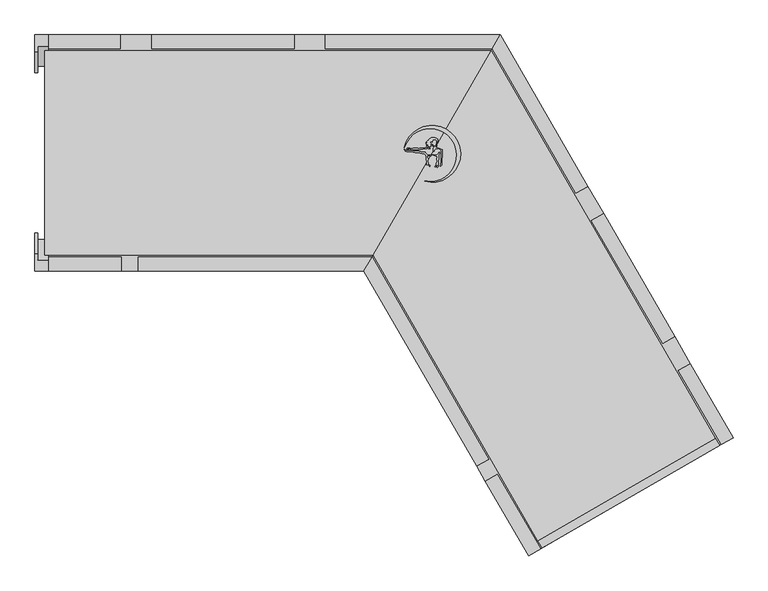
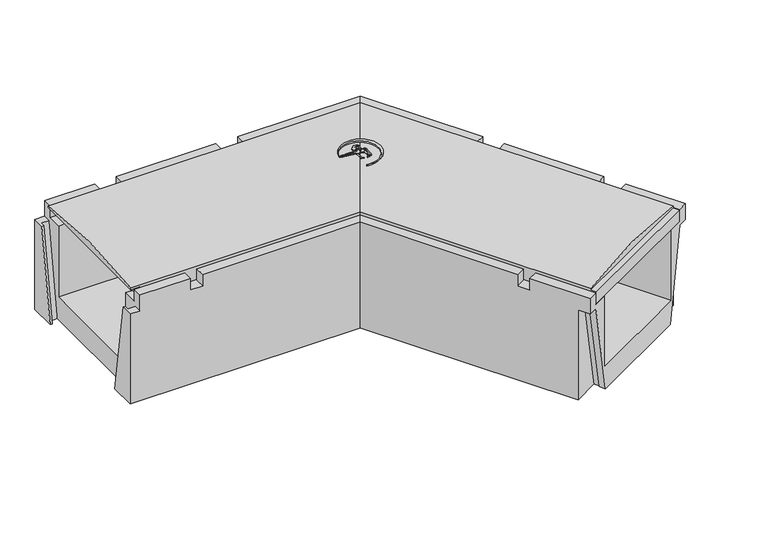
"""IFC4 building model written with IfcOpenShell, lengths in millimetres: cable carrier fitting geometry, Evotray type 2 horizontal bend : Evotray type 2 horizontal bend."""

import ifcopenshell
import ifcopenshell.guid

model = None  # the IFC model being written
_history = None  # IfcOwnerHistory: only IFC2X3 demands one
_inside = {}  # id of a spatial element -> (the spatial element, [elements in it])
_under = {}  # id of a project, library or spatial element -> (it, [spatial elements below it])
_declared = {}  # id of a project -> (the project, [libraries it declares])
_typed = {}  # id of a type object -> (the type object, [elements of that type])
_made_of = {}  # id of a material, layer set ... -> (it, [elements and type objects made of it])


def new_model(schema):
    """Start an empty IFC model of exactly this schema.

    Asked for "IFC4X3", IfcOpenShell would pick the latest addendum, in which some entities
    have other attributes; the version numbers below select the first issue.
    IFC2X3 requires an IfcOwnerHistory on every rooted entity: one is made here for all.
    """
    global model, _history
    if schema == "IFC4X3":
        model = ifcopenshell.file(schema_version=(4, 3, 0, 0))
    else:
        model = ifcopenshell.file(schema=schema)
    _inside.clear()
    _under.clear()
    _declared.clear()
    _typed.clear()
    _made_of.clear()
    _history = None
    if model.schema == "IFC2X3":
        org = make("IfcOrganization", Name="unknown")
        user = make(
            "IfcPersonAndOrganization",
            ThePerson=make("IfcPerson", FamilyName="unknown"),
            TheOrganization=org,
        )
        app = make(
            "IfcApplication",
            ApplicationDeveloper=org,
            Version="unknown",
            ApplicationFullName="unknown",
            ApplicationIdentifier="unknown",
        )
        _history = make(
            "IfcOwnerHistory",
            OwningUser=user,
            OwningApplication=app,
            ChangeAction="ADDED",
            CreationDate=0,
        )
    return model


def make(cls, **values):
    """One entity of the class cls with the attributes given. An attribute that is None is left unset."""
    return model.create_entity(
        cls, **{name: value for name, value in values.items() if value is not None}
    )


def rooted(cls, **values):
    """An entity with a GlobalId (a new one), such as an element, a storey or a relation."""
    return make(cls, GlobalId=ifcopenshell.guid.new(), OwnerHistory=_history, **values)


def si_unit(unit_type, name, prefix=None):
    """IfcSIUnit, for example si_unit("LENGTHUNIT", "METRE", prefix="MILLI")."""
    return make("IfcSIUnit", UnitType=unit_type, Prefix=prefix, Name=name)


def assignment(units):
    """IfcUnitAssignment: the units of a project."""
    return None if units is None else make("IfcUnitAssignment", Units=units)


def point(xyz):
    """IfcCartesianPoint."""
    return None if xyz is None else make("IfcCartesianPoint", Coordinates=xyz)


def direction(xyz):
    """IfcDirection."""
    return None if xyz is None else make("IfcDirection", DirectionRatios=xyz)


def frame(location, z_axis=None, x_axis=None):
    """IfcAxis2Placement3D, a coordinate frame: its origin and axes. An axis left out is left unset."""
    return make(
        "IfcAxis2Placement3D",
        Location=point(location),
        Axis=direction(z_axis),
        RefDirection=direction(x_axis),
    )


def frame_2d(location, x_axis=None):
    """IfcAxis2Placement2D, a coordinate frame in the plane: its origin and x axis."""
    return make(
        "IfcAxis2Placement2D", Location=point(location), RefDirection=direction(x_axis)
    )


def origin():
    """The frame at (0, 0, 0) with its axes left unset."""
    return frame((0.0, 0.0, 0.0))


def place(relative_to, where):
    """IfcLocalPlacement: puts the frame where relative to a parent placement (None: the world)."""
    return make(
        "IfcLocalPlacement", PlacementRelTo=relative_to, RelativePlacement=where
    )


def context(
    kind, dimensions, precision=None, world=None, true_north=None, identifier=None
):
    """IfcGeometricRepresentationContext, for example the 3D "Model" context."""
    return make(
        "IfcGeometricRepresentationContext",
        ContextIdentifier=identifier,
        ContextType=kind,
        CoordinateSpaceDimension=dimensions,
        Precision=precision,
        WorldCoordinateSystem=world,
        TrueNorth=true_north,
    )


def project(units=None, contexts=None):
    """IfcProject with its units and contexts."""
    return rooted(
        "IfcProject",
        Name="project",
        RepresentationContexts=contexts,
        UnitsInContext=assignment(units),
    )


def spatial(cls, under=None, at=None, **own):
    """A site, building, storey or space (cls), placed at a placement, below another one or the project."""
    s = rooted(cls, ObjectPlacement=at, **own)
    if under is not None:
        _under.setdefault(under.id(), (under, []))[1].append(s)
    return s


def polyline(points):
    """IfcPolyline through the points."""
    return make("IfcPolyline", Points=[point(p) for p in points])


def circle_curve(where, radius):
    """IfcCircle in the frame where."""
    return make("IfcCircle", Position=where, Radius=radius)


def ellipse_curve(where, semi_axis1, semi_axis2):
    """IfcEllipse in the frame where."""
    return make(
        "IfcEllipse", Position=where, SemiAxis1=semi_axis1, SemiAxis2=semi_axis2
    )


def trimmed(basis, trim1, trim2, sense, master):
    """IfcTrimmedCurve: the piece of a basis curve between two trims."""
    return make(
        "IfcTrimmedCurve",
        BasisCurve=basis,
        Trim1=trim1,
        Trim2=trim2,
        SenseAgreement=sense,
        MasterRepresentation=master,
    )


def segment(curve, same_sense, transition):
    """IfcCompositeCurveSegment."""
    return make(
        "IfcCompositeCurveSegment",
        Transition=transition,
        SameSense=same_sense,
        ParentCurve=curve,
    )


def composite_curve(segments, self_intersect=None):
    """IfcCompositeCurve: segments joined end to end."""
    return make("IfcCompositeCurve", Segments=segments, SelfIntersect=self_intersect)


def outline(outer, holes=None, kind="AREA"):
    """IfcArbitraryClosedProfileDef: a profile drawn as a closed curve; with holes, ...WithVoids."""
    if holes is None:
        return make("IfcArbitraryClosedProfileDef", ProfileType=kind, OuterCurve=outer)
    return make(
        "IfcArbitraryProfileDefWithVoids",
        ProfileType=kind,
        OuterCurve=outer,
        InnerCurves=holes,
    )


def extrude(swept, where, along, depth):
    """IfcExtrudedAreaSolid: the profile swept, set in the frame where, extruded along a direction by depth."""
    return make(
        "IfcExtrudedAreaSolid",
        SweptArea=swept,
        Position=where,
        ExtrudedDirection=direction(along),
        Depth=depth,
    )


def faces_of(points, faces, orient=None, outer=None):
    """IfcFace entities. A face is a list of loops; a loop is a list of indices into points, from 0.

    orient and outer hold one flag for each loop. By default every Orientation is true, the
    first loop of a face is its IfcFaceOuterBound and the others are IfcFaceBound.
    """
    made = []
    for i, loops in enumerate(faces):
        bounds = []
        for j, loop in enumerate(loops):
            is_outer = j == 0 if outer is None else outer[i][j]
            bounds.append(
                make(
                    "IfcFaceOuterBound" if is_outer else "IfcFaceBound",
                    Bound=make("IfcPolyLoop", Polygon=[points[k] for k in loop]),
                    Orientation=True if orient is None else orient[i][j],
                )
            )
        made.append(make("IfcFace", Bounds=bounds))
    return made


def faceted_brep(points, faces, orient=None, outer=None, voids=None):
    """IfcFacetedBrep: a solid bounded by flat faces; with voids (closed shells), ...WithVoids."""
    shared = [point(p) for p in points]
    hull = make("IfcClosedShell", CfsFaces=faces_of(shared, faces, orient, outer))
    if voids is None:
        return make("IfcFacetedBrep", Outer=hull)
    return make(
        "IfcFacetedBrepWithVoids",
        Outer=hull,
        Voids=[
            make(cls, CfsFaces=faces_of(shared, fs, o, b)) for cls, fs, o, b in voids
        ],
    )


def shape(context_of_items, identifier, shape_type, items):
    """IfcShapeRepresentation: the items that make up one representation, for example the "Body"."""
    return make(
        "IfcShapeRepresentation",
        ContextOfItems=context_of_items,
        RepresentationIdentifier=identifier,
        RepresentationType=shape_type,
        Items=items,
    )


def source(mapping_origin, context_of_items, identifier, shape_type, items):
    """IfcRepresentationMap: a shape defined once, which mapped items show again and again."""
    return make(
        "IfcRepresentationMap",
        MappingOrigin=mapping_origin,
        MappedRepresentation=shape(context_of_items, identifier, shape_type, items),
    )


def transform(
    local_origin,
    x_axis=None,
    y_axis=None,
    z_axis=None,
    scale=None,
    scale2=None,
    scale3=None,
    uniform=True,
):
    """IfcCartesianTransformationOperator3D, or its non-uniform kind. x_axis, y_axis, z_axis: its Axis1, 2, 3."""
    if uniform:
        return make(
            "IfcCartesianTransformationOperator3D",
            Axis1=direction(x_axis),
            Axis2=direction(y_axis),
            LocalOrigin=point(local_origin),
            Scale=scale,
            Axis3=direction(z_axis),
        )
    return make(
        "IfcCartesianTransformationOperator3DnonUniform",
        Axis1=direction(x_axis),
        Axis2=direction(y_axis),
        LocalOrigin=point(local_origin),
        Scale=scale,
        Axis3=direction(z_axis),
        Scale2=scale2,
        Scale3=scale3,
    )


def mapped(mapping_source, mapping_target):
    """IfcMappedItem: shows the shape of a source again, moved by a transform."""
    return make(
        "IfcMappedItem", MappingSource=mapping_source, MappingTarget=mapping_target
    )


def made_of(thing, what):
    """Note that an element or type object is made of a material, layer set ...; save() writes the relation."""
    if what is not None:
        _made_of.setdefault(what.id(), (what, []))[1].append(thing)
    return thing


def element(
    cls,
    number,
    at=None,
    inside=None,
    cuts=None,
    type_object=None,
    material=None,
    context=None,
    identifier="Body",
    shape_type=None,
    held_by="IfcProductDefinitionShape",
    body=None,
    shapes=None,
    **own,
):
    """One element of the class cls, such as IfcWall. Its Tag is "e" and its number.

    at: its placement. inside: the storey or other place that contains it. cuts: it is an
    opening in that element (IfcRelVoidsElement). A single representation is given by context,
    identifier, shape_type and body (its items); several are given by shapes. held_by: the class
    of the entity that holds the representations. save() writes the other relations.
    """
    e = rooted(cls, Tag="e%d" % number, ObjectPlacement=at, **own)
    if body is not None:
        shapes = [shape(context, identifier, shape_type, body)]
    if shapes is not None:
        e.Representation = make(held_by, Representations=shapes)
    if inside is not None:
        _inside.setdefault(inside.id(), (inside, []))[1].append(e)
    if cuts is not None:
        rooted(
            "IfcRelVoidsElement", RelatingBuildingElement=cuts, RelatedOpeningElement=e
        )
    if type_object is not None:
        _typed.setdefault(type_object.id(), (type_object, []))[1].append(e)
    return made_of(e, material)


def aggregate(whole, parts):
    """IfcRelAggregates: a whole, such as a stair, and the parts it consists of."""
    return rooted("IfcRelAggregates", RelatingObject=whole, RelatedObjects=parts)


def save(model, path):
    """Write the relations noted so far, then the file.

    IfcRelAggregates (storeys below a building ...), IfcRelContainedInSpatialStructure (elements
    in a storey), IfcRelDefinesByType, IfcRelAssociatesMaterial and IfcRelDeclares: one each for
    every whole, place, type object, material and project.
    """
    for whole, parts in _under.values():
        aggregate(whole, parts)
    for where, things in _inside.values():
        rooted(
            "IfcRelContainedInSpatialStructure",
            RelatedElements=things,
            RelatingStructure=where,
        )
    for kind, things in _typed.values():
        rooted("IfcRelDefinesByType", RelatedObjects=things, RelatingType=kind)
    for what, things in _made_of.values():
        rooted("IfcRelAssociatesMaterial", RelatedObjects=things, RelatingMaterial=what)
    for by, libraries in _declared.values():
        rooted("IfcRelDeclares", RelatingContext=by, RelatedDefinitions=libraries)
    model.write(path)


def plane_surface(at):
    """IfcPlane: the flat surface through the origin of the frame at, square to its z axis."""
    return make("IfcPlane", Position=at)


def cylinder_surface(at, radius):
    """IfcCylindricalSurface: all points at the distance radius from the z axis of the frame at."""
    return make("IfcCylindricalSurface", Position=at, Radius=radius)


def advanced_brep(points, edges, surfaces, faces):
    """IfcAdvancedBrep: a solid bounded by faces that lie on surfaces and meet in shared edges.

    An edge is (start, end): straight between two places in points (the first is 0);
    or (start, end, curve); or (start, end, curve, False) where it runs against its curve.
    A face is (place in surfaces, loops), or (place, loops, False) where it looks against
    its surface's normal. A loop lists edges by number (the first is 1), with a minus sign
    where the edge is run from its end to its start. The first loop is the outer one.
    """
    corners = [point(p) for p in points]
    vertices = [make("IfcVertexPoint", VertexGeometry=c) for c in corners]
    made = []
    for start, end, *more in edges:
        made.append(
            make(
                "IfcEdgeCurve",
                EdgeStart=vertices[start],
                EdgeEnd=vertices[end],
                EdgeGeometry=more[0] if more else make("IfcPolyline", Points=[corners[start], corners[end]]),
                SameSense=more[1] if len(more) > 1 else True,
            )
        )
    hull = []
    for where, loops, *sense in faces:
        bounds = []
        for j, loop in enumerate(loops):
            ring = [make("IfcOrientedEdge", EdgeElement=made[abs(k) - 1], Orientation=k > 0) for k in loop]
            bounds.append(
                make(
                    "IfcFaceOuterBound" if j == 0 else "IfcFaceBound",
                    Bound=make("IfcEdgeLoop", EdgeList=ring),
                    Orientation=True,
                )
            )
        hull.append(make("IfcAdvancedFace", Bounds=bounds, FaceSurface=surfaces[where], SameSense=sense[0] if sense else True))
    return make("IfcAdvancedBrep", Outer=make("IfcClosedShell", CfsFaces=hull))


def cable_carrier_fitting_827e61d7(model_context):
    return source(origin(), model_context, "Body", "SolidModel", [
        extrude(outline(composite_curve([segment(polyline([(78.8870908, 7.5339815), (80.3127818, 6.7108584), (79.6038505, 6.3015567), (77.0389206, 6.3015567), (74.5794273, 3.8420634), (74.5794273, 2.2583954), (73.5219134, 1.9750354), (73.1905463, 3.2117144), (73.5127676, 4.414261), (73.5127676, 6.6410761), (74.9793083, 8.1076167), (74.5794273, 8.8002309), (73.5127676, 9.4160672), (72.6544958, 9.9115907), (71.6613722, 10.9047143), (71.6613722, 12.1547711), (72.4491664, 11.6999379), (73.5127676, 10.6363367), (74.5794273, 10.0205004), (76.892192, 10.0205004), (77.5240907, 10.6523991), (77.5240907, 12.2608037), (77.9299477, 12.9637687), (78.1695177, 13.8578561), (78.1695177, 17.953291), (77.5240907, 18.598718), (73.5127676, 18.9496633), (72.7646035, 18.5177106), (72.332755, 17.769727), (72.1103616, 16.9397435), (71.8376452, 15.393092), (71.2816235, 15.9491137), (70.7159676, 16.5147695), (69.7554327, 16.5147695), (69.2809933, 15.6930164), (69.2809933, 14.868111), (69.6830405, 14.1717449), (70.4107351, 13.4440503), (70.0140958, 11.9637721), (69.6765958, 10.7042051), (69.9794033, 8.9868987), (69.1786102, 8.8456973), (67.4481649, 9.3093687), (66.2014556, 9.8907188), (65.4481984, 10.2419684), (63.8487499, 9.9599424), (64.3163083, 10.7697774), (65.9731293, 11.3728109)]), True, "CONTINUOUS"), segment(trimmed(circle_curve(frame_2d((65.4070017, 11.1008716)), 0.6280537), [point((65.9731293, 11.3728109))], [point((65.2514195, 11.7093497))], True, "CARTESIAN"), True, "CONTINUOUS"), segment(polyline([(65.2514195, 11.7093497), (63.3044045, 11.7093497), (63.8625826, 12.2675278), (64.7133623, 12.5771863), (65.5318018, 12.875074)]), True, "CONTINUOUS"), segment(trimmed(circle_curve(frame_2d((64.7934769, 12.875074)), 0.7383249), [point((65.5318018, 12.875074))], [point((64.7934769, 13.6133989))], True, "CARTESIAN"), True, "CONTINUOUS"), segment(polyline([(64.7934769, 13.6133989), (63.0857293, 13.6133989), (62.6942077, 14.2915342), (64.5127998, 14.612201), (65.8091378, 15.0840295), (65.1883851, 15.7047821), (63.2251656, 15.7047821), (63.7777481, 16.2573646), (64.8075808, 16.8519388), (65.4823051, 17.5266631), (66.2051224, 17.9439819), (67.1801344, 18.5069053)]), True, "CONTINUOUS"), segment(trimmed(circle_curve(frame_2d((66.9691491, 18.8723428)), 0.4219708), [point((67.1801344, 18.5069053))], [point((66.7581637, 19.2377802))], True, "CARTESIAN"), True, "CONTINUOUS"), segment(polyline([(66.7581637, 19.2377802), (67.3755603, 19.8551768), (68.6782303, 20.3293099), (69.6732869, 20.9038061), (70.8048235, 21.1033266), (70.4509977, 22.0754549), (75.4509977, 22.0754549), (76.4651715, 21.6025379), (77.5870265, 21.3019378), (78.6014726, 20.716247), (79.710149, 19.6075706), (79.710149, 17.0415553), (79.2212319, 16.1947259), (79.2212319, 13.46269), (78.7321969, 12.4139512), (78.3253951, 11.7093497), (78.3253951, 9.8605854), (77.5240907, 9.3979521), (76.6908122, 9.2510226)]), True, "CONTINUOUS"), segment(trimmed(circle_curve(frame_2d((77.7437637, 8.9688851)), 1.0900956), [point((76.6908122, 9.2510226))], [point((77.4616262, 7.9159336))], True, "CARTESIAN"), True, "CONTINUOUS"), segment(polyline([(77.4616262, 7.9159336), (78.8870908, 7.5339815)]), True, "CONTINUOUS")], self_intersect=False)), frame((0.0, 0.0, 223.75), z_axis=(0.0, 0.0, 1.0), x_axis=(1.0, 0.0, 0.0)), (0.0, 0.0, 1.0), 22.5),
        extrude(outline(polyline([(83.4438, 4.6789788), (81.521156, 5.7890178), (82.7103961, 6.1076737), (84.0852515, 5.6072673), (86.2114007, 4.3797345), (86.6230501, 2.8434379), (86.6230501, 0.0702487), (86.2046692, -2.3025073), (85.8785321, -11.6418533), (85.8785321, -14.4967502), (85.3188841, -17.6706715), (84.15986, -18.8296956), (83.2623714, -18.8296956), (83.9372456, -16.975494), (84.2462012, -15.2233198), (84.7606585, -12.3056877), (84.7606585, -1.066223), (85.2022931, 1.4384114), (84.6598162, 3.4629626), (83.4438, 4.6789788)])), frame((0.0, 0.0, 223.75), z_axis=(0.0, 0.0, 1.0), x_axis=(1.0, 0.0, 0.0)), (0.0, 0.0, 1.0), 22.5),
        extrude(outline(composite_curve([segment(polyline([(76.0155511, -2.929042), (77.9977525, -2.929042), (79.4660168, -2.6701473), (80.7712989, -1.3648653), (81.9514077, 1.1658863), (82.4323597, -0.1555184), (81.8096519, -1.4909195), (81.1390445, -2.929042), (81.1390445, -8.8872378), (80.7106653, -11.3166965), (80.7106653, -19.7978385), (79.2620067, -21.2464971), (78.6892694, -20.6737599), (79.3679895, -18.9313898), (79.6261348, -17.4673747)]), True, "CONTINUOUS"), segment(trimmed(circle_curve(frame_2d((79.2114868, -17.4673747)), 0.414648), [point((79.6261348, -17.4673747))], [point((78.7968387, -17.4673747))], True, "CARTESIAN"), True, "CONTINUOUS"), segment(polyline([(78.7968387, -17.4673747), (78.03115, -18.2330635), (76.7643035, -19.7428323), (76.1087944, -20.3983414), (75.3164732, -20.0288759), (77.4806931, -16.820288), (77.7866028, -15.0853881), (78.6286607, -13.2795892), (78.8858682, -11.8208929), (78.0973594, -10.4551557), (78.0973594, -7.6886085), (79.4205079, -5.8190518)]), True, "CONTINUOUS"), segment(trimmed(circle_curve(frame_2d((79.0834029, -5.5804712)), 0.4129897), [point((79.4205079, -5.8190518))], [point((78.8448223, -5.2433662))], True, "CARTESIAN"), True, "CONTINUOUS"), segment(polyline([(78.8448223, -5.2433662), (76.8410073, -4.8900395), (75.3971108, -4.2167395), (73.5771101, -3.3680593), (73.5771101, -2.499079), (76.0155511, -2.929042)]), True, "CONTINUOUS")], self_intersect=False)), frame((0.0, 0.0, 223.75), z_axis=(0.0, 0.0, 1.0), x_axis=(1.0, 0.0, 0.0)), (0.0, 0.0, 1.0), 22.5),
        extrude(outline(composite_curve([segment(polyline([(33.6039552, 3.8801527), (35.339629, 3.0707947), (39.5261029, 3.0707947), (40.596824, 3.3576935), (41.9233616, 3.3576935), (43.6444705, 3.0707947), (45.6507925, 2.5332023), (46.8039806, 2.2242065), (52.4958873, 2.2242065), (55.1123832, 1.7880518), (56.4399459, 1.4323324), (62.0541881, 1.4323324)]), True, "CONTINUOUS"), segment(trimmed(circle_curve(frame_2d((70.9077543, 4.337939)), 9.3181642), [point((62.0541881, 1.4323324))], [point((65.4084559, -3.184421))], True, "CARTESIAN"), True, "CONTINUOUS"), segment(polyline([(65.4084559, -3.184421), (68.4602407, -3.184421), (70.4948193, -3.0064185), (71.6338232, -2.4752922), (71.3763033, -3.4363696), (70.432209, -3.9814427), (69.4735221, -4.3303762), (66.2388171, -4.2174178), (65.0501225, -4.6500673), (64.6411281, -5.5271586), (64.7162087, -6.3853337), (65.1950929, -7.2147854), (65.9156984, -7.9353909), (65.9156984, -9.6916034), (65.5503981, -10.6952577), (65.6946647, -12.3442325), (66.199757, -14.2292627), (66.3478762, -15.9222719), (68.7192112, -18.6501808), (68.5105343, -19.8336466), (65.9156984, -17.2388107), (64.9528668, -17.4968007), (63.5496906, -17.2493828), (63.825251, -16.4922869), (63.825251, -14.2182314), (64.0008548, -13.2223327), (63.825251, -11.2151718), (63.4495885, -10.1830477), (63.4495885, -8.3578648), (63.0032528, -7.4006948), (63.0032528, -5.0229453), (62.7548126, -4.0957537), (62.3028422, -3.3129181), (61.8541305, -2.5357266), (61.2396881, -1.9212842), (60.8058368, -0.9908871), (57.2048986, -0.8651396), (54.8607466, -0.4743831), (52.8281533, 0.0702487), (49.4865337, 0.4214671), (47.4069207, 0.4214671), (46.0646861, 0.7811177), (44.5410911, 1.1893638), (43.1978378, 1.8157331), (42.203449, 1.8157331), (39.5520087, 1.8157331), (38.4397645, 1.5177082), (36.5764826, 1.713547), (35.0874077, 1.9617671), (33.4141002, 2.7420433), (32.4381738, 3.7179696), (31.7990907, 4.3570527), (31.7990907, 5.1439324), (33.6039552, 3.8801527)]), True, "CONTINUOUS")], self_intersect=False)), frame((0.0, 0.0, 223.75), z_axis=(0.0, 0.0, 1.0), x_axis=(1.0, 0.0, 0.0)), (0.0, 0.0, 1.0), 22.5),
        extrude(outline(composite_curve([segment(polyline([(36.1061878, 5.4241248), (37.1295021, 4.833314), (35.4018417, 5.3529849), (35.0716951, 6.2705486), (35.9100196, 7.108873), (38.7828381, 7.108873), (39.7672751, 6.7111347), (40.8577639, 6.2705486), (41.6559574, 5.8097113), (42.9161876, 5.8097113), (43.7372126, 6.1051225), (44.6224649, 6.6162232), (51.0361699, 6.6162232), (51.8917444, 6.2705486), (52.9621465, 6.2705486), (53.9228666, 6.6162232), (55.1020233, 6.6162232), (55.8203624, 7.0309564), (61.2330176, 7.0309564), (61.9932983, 7.3045113), (63.2354563, 7.3045113), (63.8112248, 7.8802798), (65.7687883, 7.8802798), (67.0567893, 7.3598936), (68.0687058, 6.7756634), (68.8731468, 6.4506481)]), True, "CONTINUOUS"), segment(trimmed(circle_curve(frame_2d((68.4658145, 6.2860752)), 0.4393221), [point((68.8731468, 6.4506481))], [point((68.3012415, 5.8787428))], False, "CARTESIAN"), True, "CONTINUOUS"), segment(polyline([(68.3012415, 5.8787428), (67.2855128, 6.2891238), (65.9738551, 6.2891238), (64.7034251, 6.5131349), (63.8914007, 6.2209622), (62.7484268, 5.8097113), (59.4042288, 5.8097113), (58.6131555, 5.3529849), (55.0458352, 5.3529849), (54.1629729, 4.8432641), (44.1629729, 4.8432641), (41.5523088, 4.6148606), (37.8637811, 6.1051225), (35.7130136, 6.1051225), (36.1061878, 5.4241248)]), True, "CONTINUOUS")], self_intersect=False)), frame((0.0, 0.0, 223.75), z_axis=(0.0, 0.0, 1.0), x_axis=(1.0, 0.0, 0.0)), (0.0, 0.0, 1.0), 22.5),
        extrude(outline(composite_curve([segment(trimmed(circle_curve(frame_2d((68.6864478, -3.2457098)), 38.3616107), [point((61.278611, -40.8852785))], [point((31.9749125, 7.8842657))], True, "CARTESIAN"), True, "CONTINUOUS"), segment(trimmed(circle_curve(frame_2d((71.8158486, -1.3653761)), 40.900563), [point((31.9749125, 7.8842657))], [point((61.278611, -40.8852785))], False, "CARTESIAN"), True, "CONTINUOUS")], self_intersect=False)), frame((0.0, 0.0, 223.75), z_axis=(0.0, 0.0, 1.0), x_axis=(1.0, 0.0, 0.0)), (0.0, 0.0, 1.0), 22.5),
        advanced_brep(
        [(230.0369343, -568.9870205, 205.0), (-13.3087105, -147.5, 205.0), (157.0096189, 147.5, 205.0), (485.5144284, -421.4870205, 205.0), (485.5144284, -421.4870205, 230.0), (230.0369343, -568.9870205, 230.0), (157.0096189, 147.5, 234.0), (479.5144284, -411.0947157, 234.0), (479.5144284, -411.0947157, 230.0), (-13.3087105, -147.5, 234.0), (224.0369343, -558.5947157, 230.0), (224.0369343, -558.5947157, 234.0)],
        [
            (0, 1),
            (1, 2),
            (2, 3),
            (3, 0),
            (3, 4),
            (4, 5),
            (5, 0),
            (2, 6),
            (6, 7),
            (7, 8),
            (8, 4),
            (1, 9),
            (9, 6, ellipse_curve(frame((71.8504542, 0.0, -675.2258215), z_axis=(-0.8660254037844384, 0.5000000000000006, 0.0), x_axis=(-0.5000000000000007, -0.8660254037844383, 0.0)), 1063.6088532, 921.1122865)),
            (5, 10),
            (10, 11),
            (11, 9),
            (8, 10),
            (7, 11, circle_curve(frame((351.7756814, -484.8447157, -675.2258215), z_axis=(0.4999999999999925, -0.866025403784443, 0.0), x_axis=(-0.866025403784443, -0.4999999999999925, 0.0)), 921.1122865)),
        ],
        [
            plane_surface(frame((427.0577137, -455.2370205, 205.0), z_axis=(0.0, 0.0, -1.0), x_axis=(-0.8660254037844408, -0.49999999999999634, 0.0))),
            plane_surface(frame((230.0369343, -568.9870205, 246.0), z_axis=(0.49999999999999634, -0.8660254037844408, 0.0), x_axis=(0.0, 0.0, -1.0))),
            plane_surface(frame((485.5144284, -421.4870205, 246.0), z_axis=(0.8660254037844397, 0.49999999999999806, 0.0), x_axis=(0.0, 0.0, -1.0))),
            plane_surface(frame((157.0096189, 147.5, 246.0), z_axis=(-0.8660254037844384, 0.5000000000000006, 0.0), x_axis=(0.0, 0.0, -1.0))),
            plane_surface(frame((-13.3087105, -147.5, 246.0), z_axis=(-0.8660254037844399, -0.49999999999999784, 0.0), x_axis=(0.0, 0.0, -1.0))),
            plane_surface(frame((284.57211, -523.6447157, 230.0), z_axis=(0.0, 0.0, 1.0), x_axis=(0.866025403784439, 0.49999999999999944, 0.0))),
            plane_surface(frame((479.5144284, -411.0947157, 246.0), z_axis=(0.49999999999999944, -0.866025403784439, 0.0), x_axis=(0.0, 0.0, -1.0))),
            cylinder_surface(frame((71.8504542, 0.0, -675.2258215), z_axis=(0.4999999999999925, -0.866025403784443, 0.0), x_axis=(-0.866025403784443, -0.4999999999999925, 0.0)), 921.1122865),
        ],
        [
            (0, [[1, 2, 3, 4]]),
            (1, [[-4, 5, 6, 7]]),
            (2, [[-3, 8, 9, 10, 11, -5]]),
            (3, [[-2, 12, 13, -8]]),
            (4, [[-1, -7, 14, 15, 16, -12]]),
            (5, [[17, -14, -6, -11]]),
            (6, [[-17, -10, 18, -15]]),
            (7, [[-9, -13, -16, -18]]),
        ],
    ),
        advanced_brep(
        [(157.0096189, 147.5, 205.0), (-13.3087105, -147.5, 205.0), (-466.0, -147.5, 205.0), (-466.0, 147.5, 205.0), (-13.3087105, -147.5, 230.0), (-13.3087105, -147.5, 234.0), (-486.0, -147.5, 234.0), (-486.0, -147.5, 230.0), (-466.0, -147.5, 230.0), (157.0096189, 147.5, 230.0), (157.0096189, 147.5, 234.0), (-466.0, 147.5, 230.0), (-486.0, 147.5, 230.0), (-486.0, 147.5, 234.0)],
        [
            (0, 1),
            (1, 2),
            (2, 3),
            (3, 0),
            (1, 4),
            (4, 5),
            (5, 6),
            (6, 7),
            (7, 8),
            (8, 2),
            (0, 9),
            (9, 10),
            (10, 5, ellipse_curve(frame((71.8504542, 0.0, -675.2258215), z_axis=(0.8660254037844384, -0.5000000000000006, 0.0), x_axis=(0.5000000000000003, 0.8660254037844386, 0.0)), 1063.6088532, 921.1122865)),
            (3, 11),
            (11, 12),
            (12, 13),
            (13, 10),
            (12, 7),
            (6, 13, circle_curve(frame((-486.0, 0.0, -675.2258215), z_axis=(-1.0, 0.0, 0.0), x_axis=(0.0, -1.0, 0.0)), 921.1122865)),
            (11, 8),
        ],
        [
            plane_surface(frame((-77.5, -147.5, 205.0), z_axis=(0.0, 0.0, -1.0), x_axis=(-1.0, 0.0, 0.0))),
            plane_surface(frame((-486.0, -147.5, 246.0), z_axis=(0.0, -1.0, 0.0), x_axis=(0.0, 0.0, -1.0))),
            plane_surface(frame((-13.3087105, -147.5, 246.0), z_axis=(0.8660254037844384, -0.5000000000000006, 0.0), x_axis=(0.0, 0.0, -1.0))),
            plane_surface(frame((157.0096189, 147.5, 246.0), z_axis=(0.0, 1.0, 0.0), x_axis=(0.0, 0.0, -1.0))),
            plane_surface(frame((-486.0, 147.5, 246.0), z_axis=(-1.0, 0.0, 0.0), x_axis=(0.0, 0.0, -1.0))),
            plane_surface(frame((-486.0, 147.5, 230.0), z_axis=(0.0, 0.0, -1.0), x_axis=(-1.0, 0.0, 0.0))),
            plane_surface(frame((-466.0, -147.5, 230.0), z_axis=(-1.0, 0.0, 0.0), x_axis=(0.0, 0.0, -1.0))),
            cylinder_surface(frame((-486.0, 0.0, -675.2258215), z_axis=(1.0, 0.0, 0.0), x_axis=(0.0, -1.0, 0.0)), 921.1122865),
        ],
        [
            (0, [[1, 2, 3, 4]]),
            (1, [[5, 6, 7, 8, 9, 10, -2]]),
            (2, [[-1, 11, 12, 13, -6, -5]]),
            (3, [[-11, -4, 14, 15, 16, 17, -12]]),
            (4, [[18, -8, 19, -16]]),
            (5, [[20, -9, -18, -15]]),
            (6, [[-20, -14, -3, -10]]),
            (7, [[-7, -13, -17, -19]]),
        ],
    ),
        faceted_brep([(-14.7520861, -150.0, 230.0), (-26.2990915, -170.0, 230.0), (136.0513627, -451.1992354, 230.0), (153.3718708, -441.1992354, 230.0), (170.0, 170.0, 230.0), (158.4529946, 150.0, 230.0), (278.6794919, -58.2384018, 230.0), (296.0, -48.2384018, 230.0), (487.6794919, -420.2370205, 230.0), (505.0, -410.2370205, 230.0), (443.5, -303.7158959, 230.0), (426.1794919, -313.7158959, 230.0), (210.5513627, -580.2370205, 230.0), (227.8718708, -570.2370205, 230.0), (165.8718708, -462.8498705, 230.0), (148.5513627, -472.8498705, 230.0), (421.0, -264.7447527, 230.0), (318.5, -87.2095449, 230.0), (301.1794919, -97.2095449, 230.0), (403.6794919, -274.7447527, 230.0), (-26.2990915, -170.0, 0.0), (170.0, 170.0, 0.0), (492.5, -388.5863854, 0.0), (443.136552, -417.0863854, 0.0), (449.136552, -427.4786903, 0.0), (451.215013, -426.2786903, 0.0), (457.715013, -437.5370205, 0.0), (257.8363498, -552.9370205, 0.0), (251.3363498, -541.6786903, 0.0), (253.4148107, -540.4786903, 0.0), (247.4148107, -530.0863854, 0.0), (198.0513627, -558.5863854, 0.0), (296.0, -48.2384018, 205.0), (318.5, -87.2095449, 205.0), (421.0, -264.7447527, 205.0), (443.5, -303.7158959, 205.0), (505.0, -410.2370205, 196.0), (492.5, -388.5863854, 196.0), (-14.7520861, -150.0, 205.0), (2.5684219, -120.0, 205.0), (2.5684219, -120.0, 50.0), (141.1324865, 120.0, 50.0), (141.1324865, 120.0, 205.0), (158.4529946, 150.0, 205.0), (198.0513627, -558.5863854, 196.0), (210.5513627, -580.2370205, 196.0), (148.5513627, -472.8498705, 205.0), (136.0513627, -451.1992354, 205.0), (227.8718708, -570.2370205, 196.0), (487.6794919, -420.2370205, 196.0), (487.6794919, -420.2370205, 205.0), (461.6987298, -435.2370205, 205.0), (461.6987298, -435.2370205, 50.0), (253.8526329, -555.2370205, 50.0), (253.8526329, -555.2370205, 205.0), (227.8718708, -570.2370205, 205.0), (221.3718708, -558.9786903, 196.0), (217.4503318, -547.3863854, 196.0), (223.4503318, -557.7786903, 196.0), (481.1794919, -408.9786903, 196.0), (479.101031, -410.1786903, 196.0), (473.101031, -399.7863854, 196.0), (153.3718708, -441.1992354, 205.0), (165.8718708, -462.8498705, 205.0), (426.1794919, -313.7158959, 205.0), (403.6794919, -274.7447527, 205.0), (301.1794919, -97.2095449, 205.0), (278.6794919, -58.2384018, 205.0)], [[[0, 1, 2, 3]], [[4, 5, 6, 7]], [[8, 9, 10, 11]], [[12, 13, 14, 15]], [[16, 17, 18, 19]], [[20, 21, 22, 23, 24, 25, 26, 27, 28, 29, 30, 31]], [[21, 4, 7, 32, 33, 17, 16, 34, 35, 10, 9, 36, 37, 22]], [[21, 20, 1, 0, 38, 39, 40, 41, 42, 43, 5, 4]], [[1, 20, 31, 44, 45, 12, 15, 46, 47, 2]], [[12, 45, 48, 27, 26, 49, 36, 9, 8, 50, 51, 52, 53, 54, 55, 13]], [[56, 48, 45, 44, 57, 58]], [[48, 56, 28, 27]], [[49, 59, 60, 61, 37, 36]], [[59, 49, 26, 25]], [[58, 29, 28, 56]], [[58, 57, 30, 29]], [[57, 44, 31, 30]], [[24, 60, 59, 25]], [[61, 60, 24, 23]], [[37, 61, 23, 22]], [[39, 38, 62, 47, 46, 63, 55, 54]], [[43, 42, 51, 50, 64, 35, 34, 65, 66, 33, 32, 67]], [[19, 18, 66, 65]], [[5, 43, 67, 6]], [[50, 8, 11, 64]], [[38, 0, 3, 62]], [[13, 55, 63, 14]], [[52, 41, 40, 53]], [[41, 52, 51, 42]], [[53, 40, 39, 54]], [[47, 62, 3, 2]], [[63, 46, 15, 14]], [[67, 32, 7, 6]], [[33, 66, 18, 17]], [[65, 34, 16, 19]], [[35, 64, 11, 10]]]),
        faceted_brep([(-26.2990915, -170.0, 230.0), (-14.7520861, -150.0, 230.0), (-351.0, -150.0, 230.0), (-351.0, -170.0, 230.0), (158.4529946, 150.0, 230.0), (170.0, 170.0, 230.0), (-82.0, 170.0, 230.0), (-82.0, 150.0, 230.0), (-127.0, 170.0, 230.0), (-332.0, 170.0, 230.0), (-332.0, 150.0, 230.0), (-127.0, 150.0, 230.0), (-376.0, -170.0, 230.0), (-376.0, -150.0, 230.0), (-480.0, -150.0, 230.0), (-480.0, -170.0, 230.0), (-377.0, 150.0, 230.0), (-377.0, 170.0, 230.0), (-480.0, 170.0, 230.0), (-480.0, 150.0, 230.0), (-500.0, 170.0, 0.0), (170.0, 170.0, 0.0), (-26.2990915, -170.0, 0.0), (-500.0, -170.0, 0.0), (-500.0, -115.5, 0.0), (-496.0, -115.5, 0.0), (-496.0, -124.6, 0.0), (-480.0, -124.6, 0.0), (-480.0, 124.6, 0.0), (-496.0, 124.6, 0.0), (-496.0, 115.4, 0.0), (-500.0, 115.4, 0.0), (-500.0, 170.0, 196.0), (-500.0, 144.8852174, 196.0), (-500.0, -170.0, 196.0), (-500.0, -144.9, 196.0), (-351.0, -170.0, 205.0), (-376.0, -170.0, 205.0), (-480.0, -170.0, 196.0), (158.4529946, 150.0, 205.0), (141.1324865, 120.0, 205.0), (141.1324865, 120.0, 50.0), (2.5684219, -120.0, 50.0), (2.5684219, -120.0, 205.0), (-14.7520861, -150.0, 205.0), (-480.0, 170.0, 196.0), (-377.0, 170.0, 205.0), (-332.0, 170.0, 205.0), (-127.0, 170.0, 205.0), (-82.0, 170.0, 205.0), (-82.0, 150.0, 205.0), (-127.0, 150.0, 205.0), (-332.0, 150.0, 205.0), (-377.0, 150.0, 205.0), (-480.0, 150.0, 205.0), (-480.0, 147.5, 205.0), (-480.0, 120.0, 205.0), (-466.0, 120.0, 205.0), (-466.0, -120.0, 205.0), (-480.0, -120.0, 205.0), (-480.0, -147.5, 205.0), (-480.0, -150.0, 205.0), (-376.0, -150.0, 205.0), (-351.0, -150.0, 205.0), (-480.0, 120.0, 50.0), (-480.0, -120.0, 50.0), (-480.0, -154.0852174, 196.0), (-496.0, -154.0852174, 196.0), (-496.0, -144.9, 196.0), (-496.0, 144.8852174, 196.0), (-496.0, 154.0, 196.0), (-480.0, 154.0, 196.0)], [[[0, 1, 2, 3]], [[4, 5, 6, 7]], [[8, 9, 10, 11]], [[12, 13, 14, 15]], [[16, 17, 18, 19]], [[20, 21, 22, 23, 24, 25, 26, 27, 28, 29, 30, 31]], [[32, 20, 31, 33]], [[23, 34, 35, 24]], [[23, 22, 0, 3, 36, 37, 12, 15, 38, 34]], [[22, 21, 5, 4, 39, 40, 41, 42, 43, 44, 1, 0]], [[21, 20, 32, 45, 18, 17, 46, 47, 9, 8, 48, 49, 6, 5]], [[40, 39, 50, 49, 48, 51, 52, 47, 46, 53, 54, 55, 56, 57]], [[44, 43, 58, 59, 60, 61, 62, 37, 36, 63]], [[1, 44, 63, 2]], [[13, 62, 61, 14]], [[11, 10, 52, 51]], [[39, 4, 7, 50]], [[53, 16, 19, 54]], [[42, 41, 64, 65]], [[41, 40, 57, 56, 64]], [[43, 42, 65, 59, 58]], [[37, 62, 13, 12]], [[63, 36, 3, 2]], [[53, 46, 17, 16]], [[47, 52, 10, 9]], [[51, 48, 8, 11]], [[49, 50, 7, 6]], [[34, 38, 66, 67, 68, 35]], [[45, 32, 33, 69, 70, 71]], [[38, 15, 14, 61, 60, 59, 65, 64, 56, 55, 54, 19, 18, 45, 71, 28, 27, 66]], [[31, 30, 69, 33]], [[25, 24, 35, 68]], [[28, 71, 70, 29]], [[29, 70, 69, 30]], [[67, 26, 25, 68]], [[66, 27, 26, 67]]]),
    ])


if __name__ == "__main__":
    model = new_model("IFC4")
    model_context = context("Model", 3, world=origin())
    ifc_project = project(units=[si_unit("LENGTHUNIT", "METRE", prefix="MILLI")], contexts=[model_context])
    site = spatial("IfcSite", under=ifc_project)
    building = spatial("IfcBuilding", under=site)
    placement = place(None, origin())
    cable_carrier_fitting_shape = cable_carrier_fitting_827e61d7(model_context)
    element("IfcCableCarrierFitting", 1, ObjectType="Evotray type 2 horizontal bend : Evotray type 2 horizontal bend", at=placement, inside=building, context=model_context, shape_type="MappedRepresentation", body=[
        mapped(cable_carrier_fitting_shape, transform((0.0, 0.0, 0.0), x_axis=(1.0, 0.0, 0.0), y_axis=(0.0, 1.0, 0.0), z_axis=(0.0, 0.0, 1.0))),
    ])
    save(model, "model.ifc")
